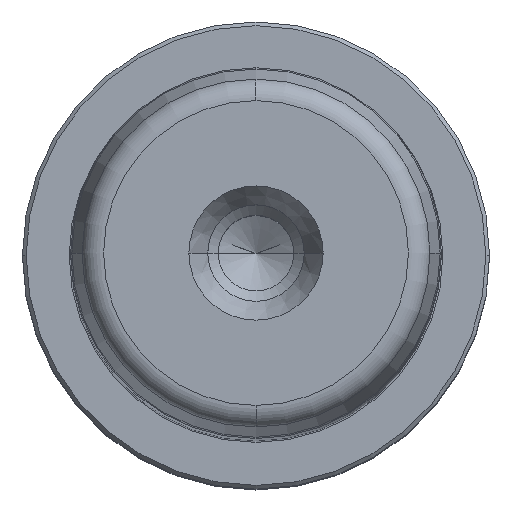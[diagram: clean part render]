
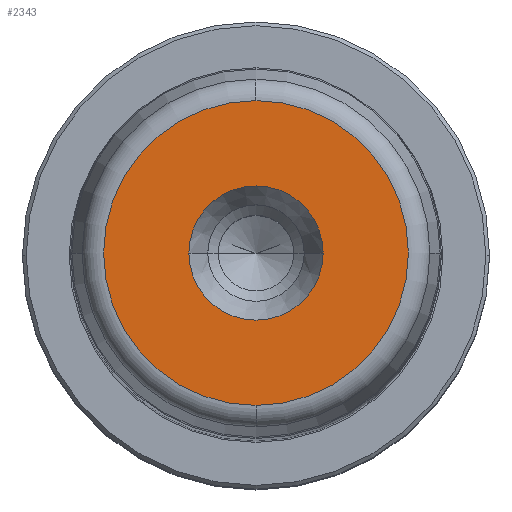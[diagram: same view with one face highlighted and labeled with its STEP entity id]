
A CAD part, top view. The second image highlights one B-rep face of the part: STEP entity #2343.
In plain terms, the highlighted planar face has unit normal (0, 0, 1).
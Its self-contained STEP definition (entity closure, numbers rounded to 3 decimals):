
#431=CARTESIAN_POINT('',(9.05,0.,200.0));
#432=VERTEX_POINT('',#431);
#439=CARTESIAN_POINT('',(-9.05,0.,200.0));
#440=VERTEX_POINT('',#439);
#441=CARTESIAN_POINT('',(0.0,0.,200.0));
#442=DIRECTION('',(0.0,0.0,1.0));
#443=DIRECTION('',(1.0,0.0,0.0));
#444=AXIS2_PLACEMENT_3D('',#441,#442,#443);
#445=CIRCLE('',#444,9.05);
#446=EDGE_CURVE('',#432,#440,#445,.T.);
#463=CARTESIAN_POINT('',(0.0,-20.554,200.0));
#464=VERTEX_POINT('',#463);
#474=CARTESIAN_POINT('',(0.,20.554,200.0));
#475=VERTEX_POINT('',#474);
#476=CARTESIAN_POINT('',(0.0,0.,200.0));
#477=DIRECTION('',(0.0,0.0,1.0));
#478=DIRECTION('',(1.0,0.0,0.0));
#479=AXIS2_PLACEMENT_3D('',#476,#477,#478);
#480=CIRCLE('',#479,20.554);
#481=EDGE_CURVE('',#475,#464,#480,.T.);
#2304=CARTESIAN_POINT('',(20.554,0.,200.0));
#2305=VERTEX_POINT('',#2304);
#2306=CARTESIAN_POINT('',(0.0,0.,200.0));
#2307=DIRECTION('',(0.0,0.0,1.0));
#2308=DIRECTION('',(1.0,0.0,0.0));
#2309=AXIS2_PLACEMENT_3D('',#2306,#2307,#2308);
#2310=CIRCLE('',#2309,20.554);
#2311=EDGE_CURVE('',#2305,#475,#2310,.T.);
#2313=CARTESIAN_POINT('',(0.0,0.,200.0));
#2314=DIRECTION('',(0.0,0.0,1.0));
#2315=DIRECTION('',(1.0,0.0,0.0));
#2316=AXIS2_PLACEMENT_3D('',#2313,#2314,#2315);
#2317=CIRCLE('',#2316,20.554);
#2318=EDGE_CURVE('',#464,#2305,#2317,.T.);
#2323=CARTESIAN_POINT('',(14.802,0.,200.0));
#2324=DIRECTION('',(0.0,0.0,1.0));
#2325=DIRECTION('',(0.0,-1.0,0.0));
#2326=AXIS2_PLACEMENT_3D('',#2323,#2324,#2325);
#2327=PLANE('',#2326);
#2328=ORIENTED_EDGE('',*,*,#2311,.T.);
#2329=ORIENTED_EDGE('',*,*,#481,.T.);
#2330=ORIENTED_EDGE('',*,*,#2318,.T.);
#2331=EDGE_LOOP('',(#2328,#2329,#2330));
#2332=FACE_OUTER_BOUND('',#2331,.T.);
#2333=ORIENTED_EDGE('',*,*,#446,.F.);
#2334=CARTESIAN_POINT('',(0.0,0.,200.0));
#2335=DIRECTION('',(0.0,0.0,1.0));
#2336=DIRECTION('',(1.0,0.0,0.0));
#2337=AXIS2_PLACEMENT_3D('',#2334,#2335,#2336);
#2338=CIRCLE('',#2337,9.05);
#2339=EDGE_CURVE('',#440,#432,#2338,.T.);
#2340=ORIENTED_EDGE('',*,*,#2339,.F.);
#2341=EDGE_LOOP('',(#2333,#2340));
#2342=FACE_BOUND('',#2341,.T.);
#2343=ADVANCED_FACE('',(#2332,#2342),#2327,.T.);
